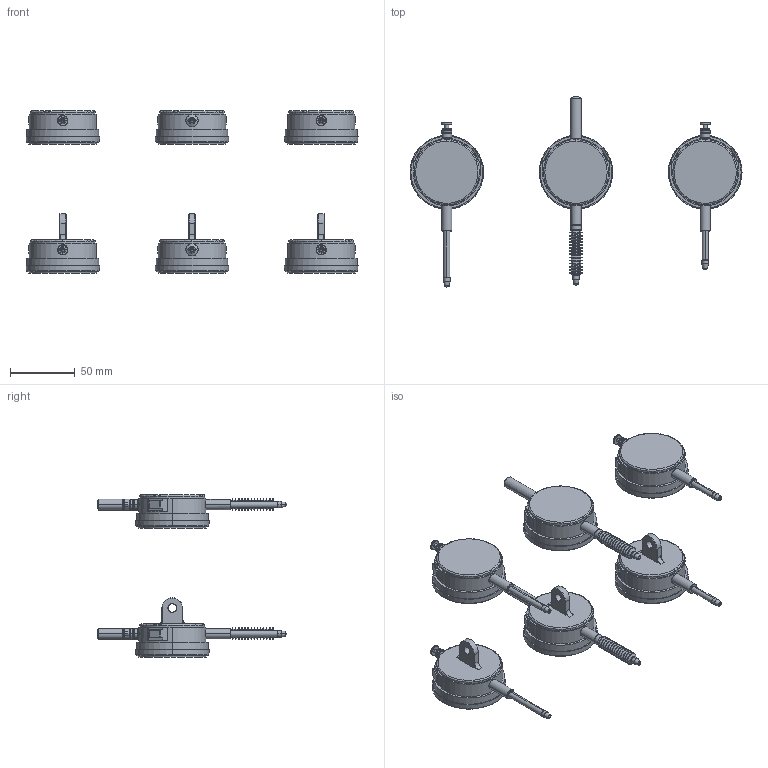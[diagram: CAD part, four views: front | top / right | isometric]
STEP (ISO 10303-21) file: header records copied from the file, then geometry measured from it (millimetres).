
FILE_DESCRIPTION(('Creo Elements/Direct Modeling STEP Export'),'2;1');
FILE_NAME('2050A(B)_2050A(B)-19_2320A(B)-10_etc.stp','2023-07-03T14:09:21',(''),(''),'Creo Elements/Direct Modeling STEP processor for AP214 (Solid Model)','Creo Elements/Direct Modeling 18.1I 13-Aug-2016 (C) Parametric Technology GmbH','');
FILE_SCHEMA(('AUTOMOTIVE_DESIGN { 1 0 10303 214 1 1 1 1 }'));
Length unit declared in the file: millimetre
Products named in the file (7): 04_2050AB-60; 06_2052AB_2052AB-19_2330AB-10_2952AB; 02_2050AB_2050AB-19_2320AB-10; 03_2050A-60; 01_2050A_2050A-19_2320A-10; 05_2052A_2052A-19_2330A-10_2952A; DG
Assembly tree (6 placements, depth 2):
  DG
    05_2052A_2052A-19_2330A-10_2952A
    01_2050A_2050A-19_2320A-10
    03_2050A-60
    02_2050AB_2050AB-19_2320AB-10
    06_2052AB_2052AB-19_2330AB-10_2952AB
    04_2050AB-60
Bounding box: 257 x 146.9 x 125.7 mm (x, y, z)
Volume: 370584.6 mm3; surface area: 70037.6 mm2
Topology: 6 solids, 6 shells, 1041 faces, 2521 edges, 1561 vertices
Faces by surface type: cylinder 335, plane 288, cone 250, torus 132, bspline 24, sphere 12
Entity records: 37836 total; most frequent: CARTESIAN_POINT 14651, ORIENTED_EDGE 5018, DIRECTION 4616, EDGE_CURVE 2509, AXIS2_PLACEMENT_3D 1774, VERTEX_POINT 1561, EDGE_LOOP 1116, VECTOR 1068
